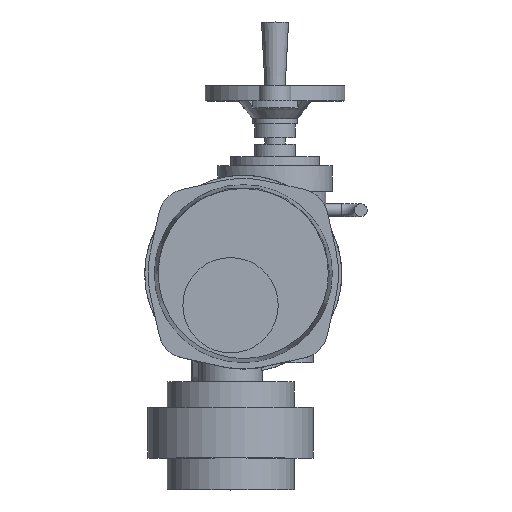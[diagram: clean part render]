
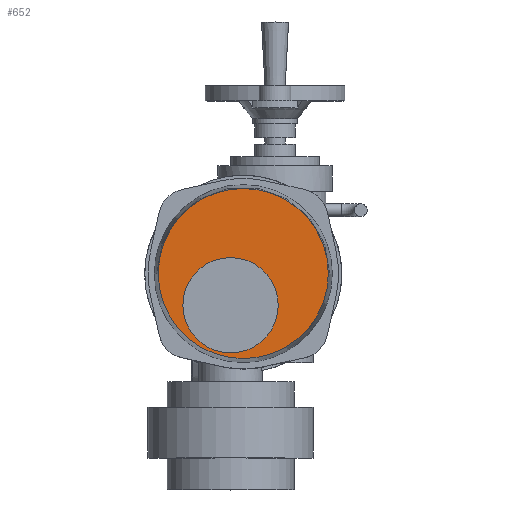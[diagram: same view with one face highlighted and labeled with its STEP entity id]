
A CAD part, top view. The second image highlights one B-rep face of the part: STEP entity #652.
In plain terms, the highlighted planar face has unit normal (0, 0, 1).
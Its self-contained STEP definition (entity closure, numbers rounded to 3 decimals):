
#652=ADVANCED_FACE('',(#7061,#7063),#7065,.T.);
#7061=FACE_BOUND('',#7062,.T.);
#7062=EDGE_LOOP('',(#12093));
#7063=FACE_BOUND('',#7064,.T.);
#7064=EDGE_LOOP('',(#12094));
#7065=PLANE('',#7066);
#7066=AXIS2_PLACEMENT_3D('',#7067,#7068,#7069);
#7067=CARTESIAN_POINT('',(15.,30.,412.));
#7068=DIRECTION('',(0.,0.,1.));
#7069=DIRECTION('',(-1.,0.,0.));
#12093=ORIENTED_EDGE('',*,*,#15953,.T.);
#12094=ORIENTED_EDGE('',*,*,#15956,.F.);
#15953=EDGE_CURVE('',#18085,#18085,#18086,.T.);
#15956=EDGE_CURVE('',#18091,#18091,#18092,.T.);
#18085=VERTEX_POINT('',#22440);
#18086=CIRCLE('',#22441,66.908);
#18091=VERTEX_POINT('',#22455);
#18092=CIRCLE('',#22456,37.5);
#22440=CARTESIAN_POINT('',(-51.908,30.,412.));
#22441=AXIS2_PLACEMENT_3D('',#22442,#22443,#22444);
#22442=CARTESIAN_POINT('',(15.,30.,412.));
#22443=DIRECTION('',(0.,0.,1.));
#22444=DIRECTION('',(-1.,0.,0.));
#22455=CARTESIAN_POINT('',(-32.5,5.,412.));
#22456=AXIS2_PLACEMENT_3D('',#22457,#22458,#22459);
#22457=CARTESIAN_POINT('',(5.,5.,412.));
#22458=DIRECTION('',(0.,0.,1.));
#22459=DIRECTION('',(-1.,0.,0.));
